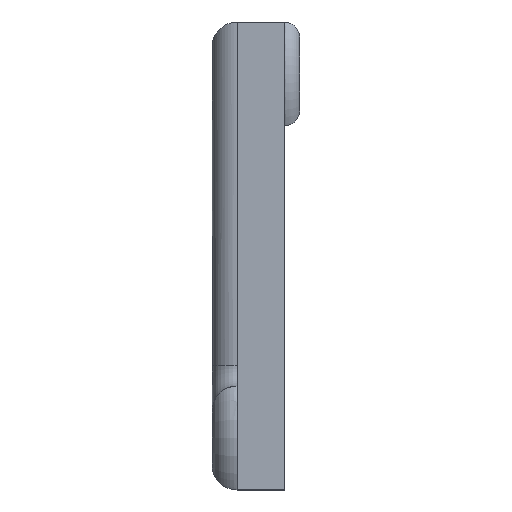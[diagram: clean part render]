
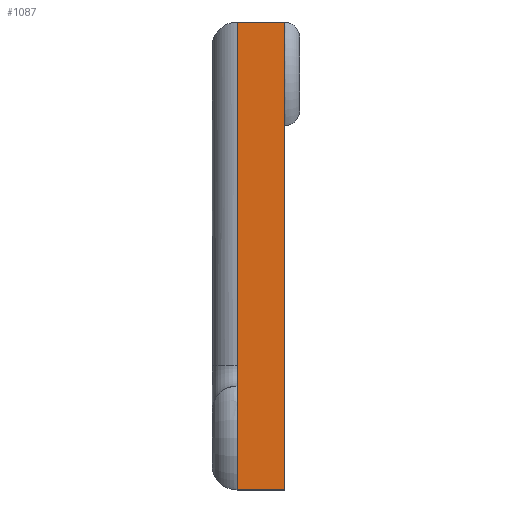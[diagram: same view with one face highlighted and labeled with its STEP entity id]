
A CAD part, left-side view. The second image highlights one B-rep face of the part: STEP entity #1087.
In plain terms, the highlighted planar face has unit normal (-1, 0, 0).
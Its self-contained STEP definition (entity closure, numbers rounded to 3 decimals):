
#13 = EDGE_CURVE ( 'NONE', #860, #1289, #755, .T. ) ;
#16 = EDGE_CURVE ( 'NONE', #1055, #860, #1435, .T. ) ;
#134 = LINE ( 'NONE', #800, #411 ) ;
#162 = CARTESIAN_POINT ( 'NONE',  ( -35., -2.26, -22.5 ) ) ;
#184 = EDGE_LOOP ( 'NONE', ( #571, #1637, #1849, #661 ) ) ;
#188 = CARTESIAN_POINT ( 'NONE',  ( -35., 2.26, -22.5 ) ) ;
#251 = CARTESIAN_POINT ( 'NONE',  ( -35., 2.26, 22.5 ) ) ;
#350 = VERTEX_POINT ( 'NONE', #162 ) ;
#411 = VECTOR ( 'NONE', #1472, 1000. ) ;
#459 = DIRECTION ( 'NONE',  ( 0., -1., 0. ) ) ;
#517 = VECTOR ( 'NONE', #2133, 1000. ) ;
#571 = ORIENTED_EDGE ( 'NONE', *, *, #695, .T. ) ;
#661 = ORIENTED_EDGE ( 'NONE', *, *, #1729, .T. ) ;
#695 = EDGE_CURVE ( 'NONE', #350, #1289, #134, .T. ) ;
#700 = CARTESIAN_POINT ( 'NONE',  ( -35., 2.26, -22.5 ) ) ;
#732 = FACE_OUTER_BOUND ( 'NONE', #184, .T. ) ;
#755 = LINE ( 'NONE', #251, #865 ) ;
#800 = CARTESIAN_POINT ( 'NONE',  ( -35., -2.26, -22.5 ) ) ;
#815 = VECTOR ( 'NONE', #459, 1000. ) ;
#860 = VERTEX_POINT ( 'NONE', #1092 ) ;
#865 = VECTOR ( 'NONE', #1283, 1000. ) ;
#895 = PLANE ( 'NONE',  #1564 ) ;
#918 = CARTESIAN_POINT ( 'NONE',  ( -35., 2.26, -22.5 ) ) ;
#980 = LINE ( 'NONE', #1656, #815 ) ;
#1045 = DIRECTION ( 'NONE',  ( 1., 0., 0. ) ) ;
#1055 = VERTEX_POINT ( 'NONE', #188 ) ;
#1087 = ADVANCED_FACE ( 'NONE', ( #732 ), #895, .F. ) ;
#1092 = CARTESIAN_POINT ( 'NONE',  ( -35., 2.26, 22.5 ) ) ;
#1283 = DIRECTION ( 'NONE',  ( 0., -1., 0. ) ) ;
#1289 = VERTEX_POINT ( 'NONE', #1329 ) ;
#1329 = CARTESIAN_POINT ( 'NONE',  ( -35., -2.26, 22.5 ) ) ;
#1435 = LINE ( 'NONE', #918, #517 ) ;
#1472 = DIRECTION ( 'NONE',  ( 0., 0., 1. ) ) ;
#1555 = DIRECTION ( 'NONE',  ( 0., 0., -1. ) ) ;
#1564 = AXIS2_PLACEMENT_3D ( 'NONE', #700, #1045, #1555 ) ;
#1637 = ORIENTED_EDGE ( 'NONE', *, *, #13, .F. ) ;
#1656 = CARTESIAN_POINT ( 'NONE',  ( -35., 2.26, -22.5 ) ) ;
#1729 = EDGE_CURVE ( 'NONE', #1055, #350, #980, .T. ) ;
#1849 = ORIENTED_EDGE ( 'NONE', *, *, #16, .F. ) ;
#2133 = DIRECTION ( 'NONE',  ( 0., 0., 1. ) ) ;
